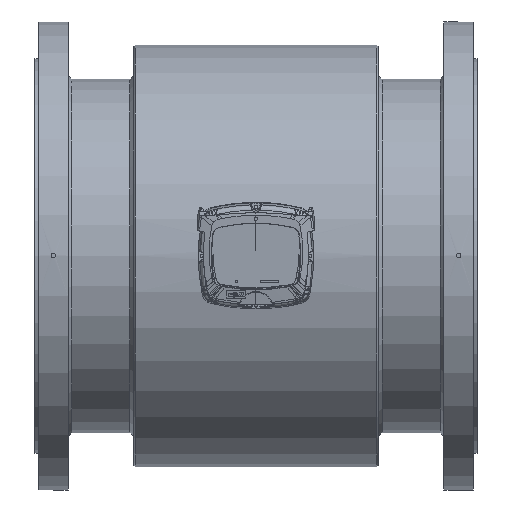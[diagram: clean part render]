
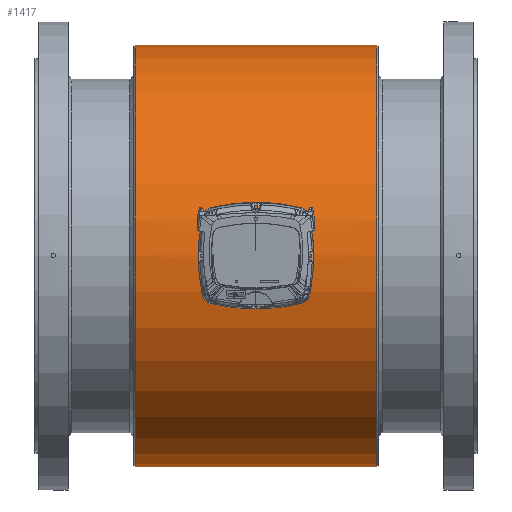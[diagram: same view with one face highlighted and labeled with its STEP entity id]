
A CAD part, top view. The second image highlights one B-rep face of the part: STEP entity #1417.
In plain terms, the highlighted cylindrical face has radius 286 mm (diameter 572 mm), a full revolution.
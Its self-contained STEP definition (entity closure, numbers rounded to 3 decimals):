
#1352=CARTESIAN_POINT('',(0.,-11.498,285.769));
#1353=VERTEX_POINT('',#1352);
#1363=CARTESIAN_POINT('',(0.,-11.499,285.769));
#1364=CARTESIAN_POINT('',(1.736,-11.499,285.769));
#1365=CARTESIAN_POINT('',(5.206,-10.713,285.802));
#1366=CARTESIAN_POINT('',(9.382,-7.416,285.914));
#1367=CARTESIAN_POINT('',(11.698,-2.647,286.004));
#1368=CARTESIAN_POINT('',(11.698,2.648,286.003));
#1369=CARTESIAN_POINT('',(9.38,7.413,285.914));
#1370=CARTESIAN_POINT('',(4.743,11.085,285.789));
#1371=CARTESIAN_POINT('',(-0.04,11.804,285.756));
#1372=CARTESIAN_POINT('',(-3.433,11.029,285.787));
#1373=CARTESIAN_POINT('',(-6.678,9.774,285.835));
#1374=CARTESIAN_POINT('',(-9.772,6.919,285.929));
#1375=CARTESIAN_POINT('',(-11.695,2.056,286.003));
#1376=CARTESIAN_POINT('',(-11.699,-2.645,286.004));
#1377=CARTESIAN_POINT('',(-9.381,-7.416,285.914));
#1378=CARTESIAN_POINT('',(-5.207,-10.713,285.802));
#1379=CARTESIAN_POINT('',(-1.735,-11.499,285.769));
#1380=CARTESIAN_POINT('',(0.,-11.499,285.769));
#1381=B_SPLINE_CURVE_WITH_KNOTS('',3,(#1363,#1364,#1365,#1366,#1367,#1368,#1369,#1370,#1371,#1372,#1373,#1374,#1375,#1376,#1377,#1378,#1379,#1380),.UNSPECIFIED.,.T.,.U.,(4,1,1,1,1,1,1,1,1,1,1,1,1,1,1,4),(-7.258,-6.739,-6.221,-5.702,-5.184,-4.666,-4.147,-3.456,-3.283,-3.11,-2.419,-2.074,-1.555,-1.037,-0.518,0.0),.UNSPECIFIED.);
#1382=EDGE_CURVE('',#1353,#1353,#1381,.T.);
#1387=CARTESIAN_POINT('',(82.0,0.0,0.0));
#1388=DIRECTION('',(1.0,0.0,0.0));
#1389=DIRECTION('',(0.0,1.0,0.0));
#1390=AXIS2_PLACEMENT_3D('',#1387,#1388,#1389);
#1391=CYLINDRICAL_SURFACE('',#1390,286.0);
#1392=CARTESIAN_POINT('',(-164.,286.0,0.0));
#1393=VERTEX_POINT('',#1392);
#1394=CARTESIAN_POINT('',(-164.,0.0,0.0));
#1395=DIRECTION('',(1.0,0.0,0.0));
#1396=DIRECTION('',(0.0,1.0,0.0));
#1397=AXIS2_PLACEMENT_3D('',#1394,#1395,#1396);
#1398=CIRCLE('',#1397,286.0);
#1399=EDGE_CURVE('',#1393,#1393,#1398,.T.);
#1400=ORIENTED_EDGE('',*,*,#1399,.T.);
#1401=EDGE_LOOP('',(#1400));
#1402=FACE_OUTER_BOUND('',#1401,.T.);
#1403=CARTESIAN_POINT('',(164.,286.,0.0));
#1404=VERTEX_POINT('',#1403);
#1405=CARTESIAN_POINT('',(164.,0.0,0.0));
#1406=DIRECTION('',(1.0,0.0,0.0));
#1407=DIRECTION('',(0.0,1.0,0.0));
#1408=AXIS2_PLACEMENT_3D('',#1405,#1406,#1407);
#1409=CIRCLE('',#1408,286.);
#1410=EDGE_CURVE('',#1404,#1404,#1409,.T.);
#1411=ORIENTED_EDGE('',*,*,#1410,.F.);
#1412=EDGE_LOOP('',(#1411));
#1413=FACE_BOUND('',#1412,.T.);
#1414=ORIENTED_EDGE('',*,*,#1382,.F.);
#1415=EDGE_LOOP('',(#1414));
#1416=FACE_BOUND('',#1415,.T.);
#1417=ADVANCED_FACE('',(#1402,#1413,#1416),#1391,.T.);
